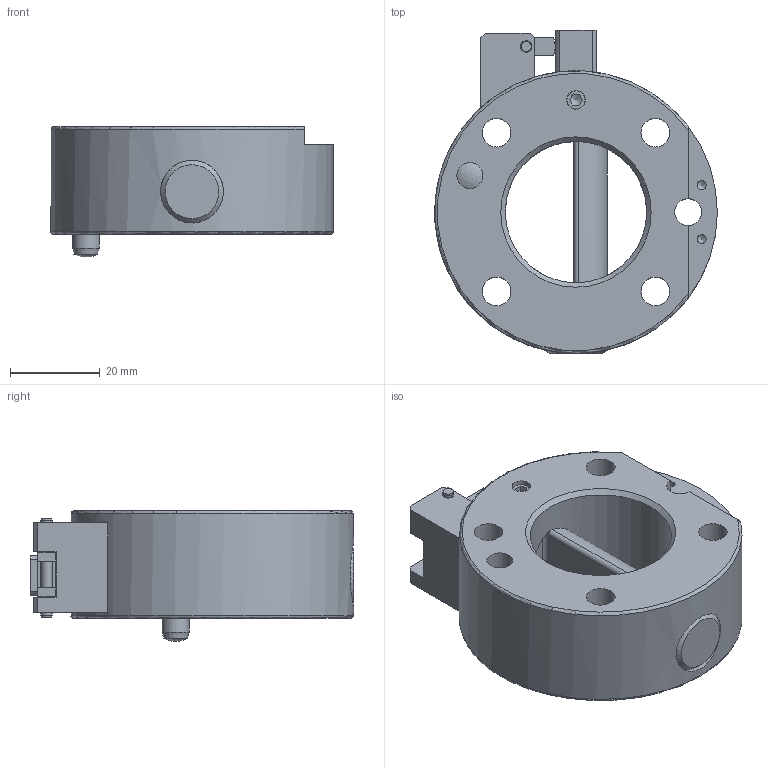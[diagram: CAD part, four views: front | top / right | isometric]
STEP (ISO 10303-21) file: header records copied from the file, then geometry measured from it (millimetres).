
FILE_DESCRIPTION((''),'2;1');
FILE_NAME('T:\CAD\Standard\Daten\3D-Datenbank\SWS\SWS063\Step-Daten\G-SWS063-2OE-VS2.stp','2011-08-18T15:17:37',('Yvonne'),(''),'Autodesk Inventor 2011','Autodesk Inventor 2011','');
FILE_SCHEMA(('AUTOMOTIVE_DESIGN { 1 0 10303 214 1 1 1 1 }'));
Length unit declared in the file: millimetre
Products named in the file (1): Bauteil12
Bounding box: 62.99 x 72 x 29.17 mm (x, y, z)
Volume: 54820.2 mm3; surface area: 17921.8 mm2
Topology: 1 solids, 3 shells, 161 faces, 392 edges, 253 vertices
Faces by surface type: plane 76, cylinder 55, cone 16, torus 8, bspline 4, sphere 2
Full cylindrical faces by diameter (mm): 2.013 x2, 2.459 x2, 2.5 x5, 3 x2, 3.2 x2, 3.5 x1, 4.134 x3, 5.5 x2, 5.8 x1, 6 x4, 6.4 x4, 11 x4, 14 x2, 31.5 x1, 63 x1
Entity records: 4989 total; most frequent: CARTESIAN_POINT 1387, DIRECTION 689, ORIENTED_EDGE 620, EDGE_CURVE 310, AXIS2_PLACEMENT_3D 273, EDGE_LOOP 258, VERTEX_POINT 228, STYLED_ITEM 162
